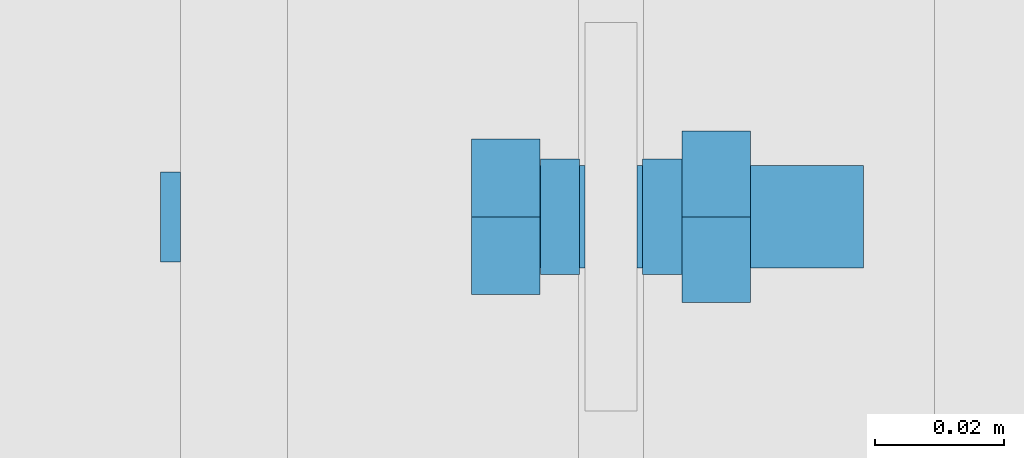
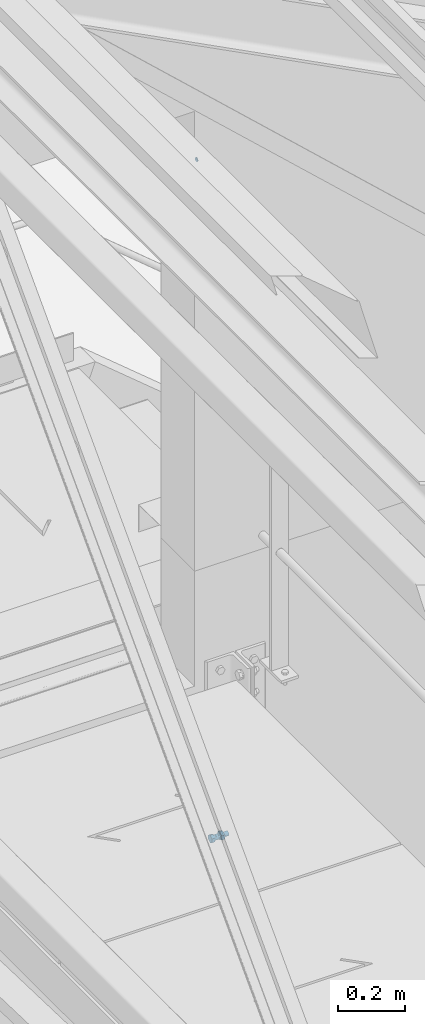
# One storey, part 286 of 362: 2 mechanical fasteners.
"""IFC2X3 building model written with IfcOpenShell, lengths in millimetres."""

import ifcopenshell
import ifcopenshell.guid

model = None  # the IFC model being written
_history = None  # IfcOwnerHistory: only IFC2X3 demands one
_inside = {}  # id of a spatial element -> (the spatial element, [elements in it])
_under = {}  # id of a project, library or spatial element -> (it, [spatial elements below it])
_declared = {}  # id of a project -> (the project, [libraries it declares])
_typed = {}  # id of a type object -> (the type object, [elements of that type])
_made_of = {}  # id of a material, layer set ... -> (it, [elements and type objects made of it])


def new_model(schema):
    """Start an empty IFC model of exactly this schema.

    Asked for "IFC4X3", IfcOpenShell would pick the latest addendum, in which some entities
    have other attributes; the version numbers below select the first issue.
    IFC2X3 requires an IfcOwnerHistory on every rooted entity: one is made here for all.
    """
    global model, _history
    if schema == "IFC4X3":
        model = ifcopenshell.file(schema_version=(4, 3, 0, 0))
    else:
        model = ifcopenshell.file(schema=schema)
    _inside.clear()
    _under.clear()
    _declared.clear()
    _typed.clear()
    _made_of.clear()
    _history = None
    if model.schema == "IFC2X3":
        org = make("IfcOrganization", Name="unknown")
        user = make(
            "IfcPersonAndOrganization",
            ThePerson=make("IfcPerson", FamilyName="unknown"),
            TheOrganization=org,
        )
        app = make(
            "IfcApplication",
            ApplicationDeveloper=org,
            Version="unknown",
            ApplicationFullName="unknown",
            ApplicationIdentifier="unknown",
        )
        _history = make(
            "IfcOwnerHistory",
            OwningUser=user,
            OwningApplication=app,
            ChangeAction="ADDED",
            CreationDate=0,
        )
    return model


def make(cls, **values):
    """One entity of the class cls with the attributes given. An attribute that is None is left unset."""
    return model.create_entity(
        cls, **{name: value for name, value in values.items() if value is not None}
    )


def rooted(cls, **values):
    """An entity with a GlobalId (a new one), such as an element, a storey or a relation."""
    return make(cls, GlobalId=ifcopenshell.guid.new(), OwnerHistory=_history, **values)


def si_unit(unit_type, name, prefix=None):
    """IfcSIUnit, for example si_unit("LENGTHUNIT", "METRE", prefix="MILLI")."""
    return make("IfcSIUnit", UnitType=unit_type, Prefix=prefix, Name=name)


def assignment(units):
    """IfcUnitAssignment: the units of a project."""
    return None if units is None else make("IfcUnitAssignment", Units=units)


def point(xyz):
    """IfcCartesianPoint."""
    return None if xyz is None else make("IfcCartesianPoint", Coordinates=xyz)


def direction(xyz):
    """IfcDirection."""
    return None if xyz is None else make("IfcDirection", DirectionRatios=xyz)


def frame(location, z_axis=None, x_axis=None):
    """IfcAxis2Placement3D, a coordinate frame: its origin and axes. An axis left out is left unset."""
    return make(
        "IfcAxis2Placement3D",
        Location=point(location),
        Axis=direction(z_axis),
        RefDirection=direction(x_axis),
    )


def frame_2d(location, x_axis=None):
    """IfcAxis2Placement2D, a coordinate frame in the plane: its origin and x axis."""
    return make(
        "IfcAxis2Placement2D", Location=point(location), RefDirection=direction(x_axis)
    )


def origin_with_axes():
    """The frame at (0, 0, 0) with the z axis (0, 0, 1) and the x axis (1, 0, 0) written out."""
    return frame((0.0, 0.0, 0.0), z_axis=(0.0, 0.0, 1.0), x_axis=(1.0, 0.0, 0.0))


def origin_2d_with_axis():
    """The frame at (0, 0) in the plane with the x axis (1, 0) written out."""
    return frame_2d((0.0, 0.0), x_axis=(1.0, 0.0))


def place(relative_to, where):
    """IfcLocalPlacement: puts the frame where relative to a parent placement (None: the world)."""
    return make(
        "IfcLocalPlacement", PlacementRelTo=relative_to, RelativePlacement=where
    )


def context(
    kind, dimensions, precision=None, world=None, true_north=None, identifier=None
):
    """IfcGeometricRepresentationContext, for example the 3D "Model" context."""
    return make(
        "IfcGeometricRepresentationContext",
        ContextIdentifier=identifier,
        ContextType=kind,
        CoordinateSpaceDimension=dimensions,
        Precision=precision,
        WorldCoordinateSystem=world,
        TrueNorth=true_north,
    )


def subcontext(parent, identifier, kind, view, scale=None):
    """IfcGeometricRepresentationSubContext, for example "Body" below "Model"."""
    return make(
        "IfcGeometricRepresentationSubContext",
        ContextIdentifier=identifier,
        ContextType=kind,
        ParentContext=parent,
        TargetScale=scale,
        TargetView=view,
    )


def project(units=None, contexts=None):
    """IfcProject with its units and contexts."""
    return rooted(
        "IfcProject",
        Name="project",
        RepresentationContexts=contexts,
        UnitsInContext=assignment(units),
    )


def spatial(cls, under=None, at=None, **own):
    """A site, building, storey or space (cls), placed at a placement, below another one or the project."""
    s = rooted(cls, ObjectPlacement=at, **own)
    if under is not None:
        _under.setdefault(under.id(), (under, []))[1].append(s)
    return s


def polyline(points):
    """IfcPolyline through the points."""
    return make("IfcPolyline", Points=[point(p) for p in points])


def profile(cls, at=None, kind="AREA", **sizes):
    """A parametric profile (cls). Its sizes go by their IFC names, for example OverallWidth=200.0."""
    return make(cls, ProfileType=kind, Position=at, **sizes)


def circle(**sizes):
    """IfcCircleProfileDef."""
    return profile("IfcCircleProfileDef", **sizes)


def outline(outer, holes=None, kind="AREA"):
    """IfcArbitraryClosedProfileDef: a profile drawn as a closed curve; with holes, ...WithVoids."""
    if holes is None:
        return make("IfcArbitraryClosedProfileDef", ProfileType=kind, OuterCurve=outer)
    return make(
        "IfcArbitraryProfileDefWithVoids",
        ProfileType=kind,
        OuterCurve=outer,
        InnerCurves=holes,
    )


def extrude(swept, where, along, depth):
    """IfcExtrudedAreaSolid: the profile swept, set in the frame where, extruded along a direction by depth."""
    return make(
        "IfcExtrudedAreaSolid",
        SweptArea=swept,
        Position=where,
        ExtrudedDirection=direction(along),
        Depth=depth,
    )


def shape(context_of_items, identifier, shape_type, items):
    """IfcShapeRepresentation: the items that make up one representation, for example the "Body"."""
    return make(
        "IfcShapeRepresentation",
        ContextOfItems=context_of_items,
        RepresentationIdentifier=identifier,
        RepresentationType=shape_type,
        Items=items,
    )


def source(mapping_origin, context_of_items, identifier, shape_type, items):
    """IfcRepresentationMap: a shape defined once, which mapped items show again and again."""
    return make(
        "IfcRepresentationMap",
        MappingOrigin=mapping_origin,
        MappedRepresentation=shape(context_of_items, identifier, shape_type, items),
    )


def transform(
    local_origin,
    x_axis=None,
    y_axis=None,
    z_axis=None,
    scale=None,
    scale2=None,
    scale3=None,
    uniform=True,
):
    """IfcCartesianTransformationOperator3D, or its non-uniform kind. x_axis, y_axis, z_axis: its Axis1, 2, 3."""
    if uniform:
        return make(
            "IfcCartesianTransformationOperator3D",
            Axis1=direction(x_axis),
            Axis2=direction(y_axis),
            LocalOrigin=point(local_origin),
            Scale=scale,
            Axis3=direction(z_axis),
        )
    return make(
        "IfcCartesianTransformationOperator3DnonUniform",
        Axis1=direction(x_axis),
        Axis2=direction(y_axis),
        LocalOrigin=point(local_origin),
        Scale=scale,
        Axis3=direction(z_axis),
        Scale2=scale2,
        Scale3=scale3,
    )


def mapped(mapping_source, mapping_target):
    """IfcMappedItem: shows the shape of a source again, moved by a transform."""
    return make(
        "IfcMappedItem", MappingSource=mapping_source, MappingTarget=mapping_target
    )


def material(Name=None, Category=None):
    """IfcMaterial."""
    return make("IfcMaterial", Name=Name, Category=Category)


def made_of(thing, what):
    """Note that an element or type object is made of a material, layer set ...; save() writes the relation."""
    if what is not None:
        _made_of.setdefault(what.id(), (what, []))[1].append(thing)
    return thing


def type_object(cls, material=None, **own):
    """A type object (cls), such as IfcWallType, which elements share."""
    return made_of(rooted(cls, **own), material)


def element(
    cls,
    number,
    at=None,
    inside=None,
    cuts=None,
    type_object=None,
    material=None,
    context=None,
    identifier="Body",
    shape_type=None,
    held_by="IfcProductDefinitionShape",
    body=None,
    shapes=None,
    **own,
):
    """One element of the class cls, such as IfcWall. Its Tag is "e" and its number.

    at: its placement. inside: the storey or other place that contains it. cuts: it is an
    opening in that element (IfcRelVoidsElement). A single representation is given by context,
    identifier, shape_type and body (its items); several are given by shapes. held_by: the class
    of the entity that holds the representations. save() writes the other relations.
    """
    e = rooted(cls, Tag="e%d" % number, ObjectPlacement=at, **own)
    if body is not None:
        shapes = [shape(context, identifier, shape_type, body)]
    if shapes is not None:
        e.Representation = make(held_by, Representations=shapes)
    if inside is not None:
        _inside.setdefault(inside.id(), (inside, []))[1].append(e)
    if cuts is not None:
        rooted(
            "IfcRelVoidsElement", RelatingBuildingElement=cuts, RelatedOpeningElement=e
        )
    if type_object is not None:
        _typed.setdefault(type_object.id(), (type_object, []))[1].append(e)
    return made_of(e, material)


def aggregate(whole, parts):
    """IfcRelAggregates: a whole, such as a stair, and the parts it consists of."""
    return rooted("IfcRelAggregates", RelatingObject=whole, RelatedObjects=parts)


def save(model, path):
    """Write the relations noted so far, then the file.

    IfcRelAggregates (storeys below a building ...), IfcRelContainedInSpatialStructure (elements
    in a storey), IfcRelDefinesByType, IfcRelAssociatesMaterial and IfcRelDeclares: one each for
    every whole, place, type object, material and project.
    """
    for whole, parts in _under.values():
        aggregate(whole, parts)
    for where, things in _inside.values():
        rooted(
            "IfcRelContainedInSpatialStructure",
            RelatedElements=things,
            RelatingStructure=where,
        )
    for kind, things in _typed.values():
        rooted("IfcRelDefinesByType", RelatedObjects=things, RelatingType=kind)
    for what, things in _made_of.values():
        rooted("IfcRelAssociatesMaterial", RelatedObjects=things, RelatingMaterial=what)
    for by, libraries in _declared.values():
        rooted("IfcRelDeclares", RelatingContext=by, RelatedDefinitions=libraries)
    model.write(path)


model = new_model("IFC2X3")

# Units and contexts
model_context = context("Model", 3, precision=1e-05, world=origin_with_axes())
body_context = subcontext(model_context, "Body", "Model", "MODEL_VIEW")
ifc_project = project(units=[si_unit("LENGTHUNIT", "METRE", prefix="MILLI"), si_unit("AREAUNIT", "SQUARE_METRE"), si_unit("VOLUMEUNIT", "CUBIC_METRE"), si_unit("MASSUNIT", "GRAM", prefix="KILO"), si_unit("TIMEUNIT", "SECOND"), si_unit("PLANEANGLEUNIT", "RADIAN"), si_unit("SOLIDANGLEUNIT", "STERADIAN"), si_unit("THERMODYNAMICTEMPERATUREUNIT", "DEGREE_CELSIUS"), si_unit("LUMINOUSINTENSITYUNIT", "LUMEN")], contexts=[model_context])

# Site, building, storey
site_placement = place(None, origin_with_axes())
site = spatial("IfcSite", under=ifc_project, at=site_placement, Name="Undefined", CompositionType="ELEMENT")
building_placement = place(site_placement, origin_with_axes())
building = spatial("IfcBuilding", under=site, at=building_placement, Name="Undefined", CompositionType="ELEMENT")
storey_placement = place(building_placement, origin_with_axes())
storey = spatial("IfcBuildingStorey", under=building, at=storey_placement, Name="Undefined", CompositionType="ELEMENT", Elevation=0.0)

# Mechanical fasteners
ifc_material_1 = material(Name="6.8")
mechanical_fastener_type = type_object("IfcMechanicalFastenerType", Name="Bolt assembly")
shared_shape_1 = source(origin_with_axes(), body_context, "Body", "SweptSolid", [
    extrude(circle(Radius=7.0, at=origin_2d_with_axis()), frame((0.0, 0.0, 0.0), z_axis=(0.0, 1.0, 0.0), x_axis=(1.0, 0.0, 0.0)), (0.0, 0.0, 1.0), 3.1),
])
mechanical_fastener_1_placement = place(storey_placement, frame((23403.4999989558, 13300.000078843, 11741.4098788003), z_axis=(0.0, -1.0, 0.0), x_axis=(0.0, 0.0, 1.0)))
element("IfcMechanicalFastener", 1, at=mechanical_fastener_1_placement, inside=storey, type_object=mechanical_fastener_type, material=ifc_material_1, Name="Bolt assembly", NominalDiameter=12.0, NominalLength=3.0, context=body_context, shape_type="MappedRepresentation", body=[
    mapped(shared_shape_1, transform((0.0, 0.0, 0.0))),
])
ifc_material_2 = material(Name="8.8-SB-ZINGUE")
shared_shape_2 = source(origin_with_axes(), body_context, "Body", "SweptSolid", [
    extrude(circle(Radius=9.0, at=origin_2d_with_axis()), frame((0.0, -10.9000000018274, 0.0), z_axis=(0.0, 1.0, 0.0), x_axis=(1.0, 0.0, 0.0)), (0.0, 0.0, 1.0), 6.0),
    extrude(circle(Radius=9.0, at=origin_2d_with_axis()), frame((0.0, 4.9000000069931, 0.0), z_axis=(0.0, 1.0, 0.0), x_axis=(1.0, 0.0, 0.0)), (0.0, 0.0, 1.0), 6.1),
    extrude(circle(Radius=9.0, at=origin_2d_with_axis()), frame((0.0, -3.99999923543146, 0.0), z_axis=(0.0, 1.0, 0.0), x_axis=(1.0, 0.0, 0.0)), (0.0, 0.0, 1.0), 8.0),
    extrude(outline(polyline([(13.85640646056, 0.0), (6.92820323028, 12.0000000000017), (-6.92820323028, 12.0000000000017), (-13.85640646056, 0.0), (-6.92820323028, -12.0000000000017), (6.92820323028, -12.0000000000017), (13.85640646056, 0.0)])), frame((0.0, -21.5600000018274, 0.0), z_axis=(0.0, 1.0, 0.0), x_axis=(1.0, 0.0, 0.0)), (0.0, 0.0, 1.0), 10.56),
    extrude(circle(Radius=8.0, at=origin_2d_with_axis()), frame((0.0, -11.0000000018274, 0.0), z_axis=(0.0, 1.0, 0.0), x_axis=(1.0, 0.0, 0.0)), (0.0, 0.0, 1.0), 50.0),
    extrude(outline(polyline([(15.3344231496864, 0.0), (7.6672115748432, 13.2800000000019), (-7.6672115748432, 13.2800000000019), (-15.3344231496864, 0.0), (-7.6672115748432, -13.2800000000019), (7.6672115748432, -13.2800000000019), (15.3344231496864, 0.0)])), frame((0.0, 11.0000000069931, 0.0), z_axis=(0.0, 1.0, 0.0), x_axis=(1.0, 0.0, 0.0)), (0.0, 0.0, 1.0), 10.56),
])
mechanical_fastener_2_placement = place(storey_placement, frame((23470.0, 13300.0000009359, 9242.99999913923), z_axis=(0.0, 1.0, 0.0), x_axis=(0.0, 0.0, 1.0)))
element("IfcMechanicalFastener", 2, at=mechanical_fastener_2_placement, inside=storey, type_object=mechanical_fastener_type, material=ifc_material_2, Name="Bolt assembly", NominalDiameter=16.0, NominalLength=50.0, context=body_context, shape_type="MappedRepresentation", body=[
    mapped(shared_shape_2, transform((0.0, 0.0, 0.0))),
])

save(model, "model.ifc")
